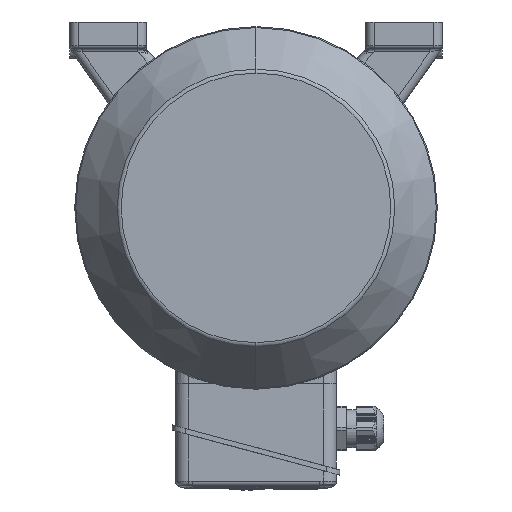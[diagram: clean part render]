
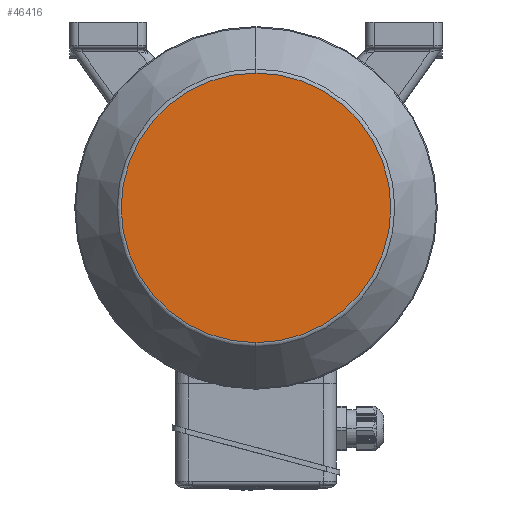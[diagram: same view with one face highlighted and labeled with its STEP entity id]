
A CAD part, left-side view. The second image highlights one B-rep face of the part: STEP entity #46416.
In plain terms, the highlighted planar face has unit normal (-1, 0, 0).
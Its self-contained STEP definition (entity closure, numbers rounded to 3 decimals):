
#268 = CARTESIAN_POINT ( 'NONE',  ( -199.25, 0., -81.227 ) ) ;
#4079 = DIRECTION ( 'NONE',  ( -1., 0., 0. ) ) ;
#5456 = CARTESIAN_POINT ( 'NONE',  ( -199.25, 0., 0. ) ) ;
#7757 = PLANE ( 'NONE',  #37911 ) ;
#14319 = ORIENTED_EDGE ( 'NONE', *, *, #44932, .F. ) ;
#15872 = CIRCLE ( 'NONE', #28781, 81.227 ) ;
#16136 = CIRCLE ( 'NONE', #33912, 81.227 ) ;
#17035 = CARTESIAN_POINT ( 'NONE',  ( -199.25, 0., -81.227 ) ) ;
#20372 = CARTESIAN_POINT ( 'NONE',  ( -199.25, 0., 81.227 ) ) ;
#21311 = DIRECTION ( 'NONE',  ( 0., 0., -1. ) ) ;
#25513 = DIRECTION ( 'NONE',  ( 1., 0., 0. ) ) ;
#25848 = VERTEX_POINT ( 'NONE', #20372 ) ;
#28588 = EDGE_LOOP ( 'NONE', ( #36291, #14319 ) ) ;
#28781 = AXIS2_PLACEMENT_3D ( 'NONE', #41847, #25513, #21311 ) ;
#32607 = VERTEX_POINT ( 'NONE', #17035 ) ;
#33553 = DIRECTION ( 'NONE',  ( 0., 1., 0. ) ) ;
#33912 = AXIS2_PLACEMENT_3D ( 'NONE', #5456, #42779, #38036 ) ;
#36291 = ORIENTED_EDGE ( 'NONE', *, *, #41195, .F. ) ;
#37911 = AXIS2_PLACEMENT_3D ( 'NONE', #268, #4079, #33553 ) ;
#38036 = DIRECTION ( 'NONE',  ( 0., 0., -1. ) ) ;
#40281 = FACE_OUTER_BOUND ( 'NONE', #28588, .T. ) ;
#41195 = EDGE_CURVE ( 'NONE', #32607, #25848, #16136, .T. ) ;
#41847 = CARTESIAN_POINT ( 'NONE',  ( -199.25, 0., 0. ) ) ;
#42779 = DIRECTION ( 'NONE',  ( 1., 0., 0. ) ) ;
#44932 = EDGE_CURVE ( 'NONE', #25848, #32607, #15872, .T. ) ;
#46416 = ADVANCED_FACE ( 'NONE', ( #40281 ), #7757, .T. ) ;
